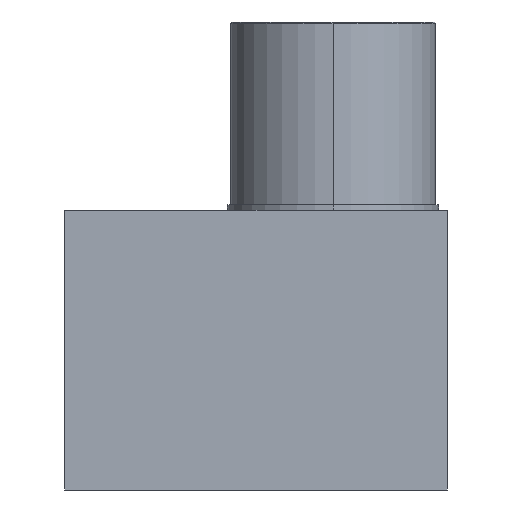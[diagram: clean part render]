
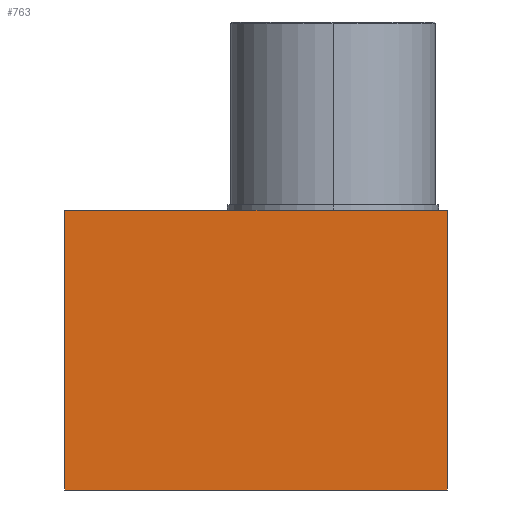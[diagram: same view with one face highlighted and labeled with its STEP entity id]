
A CAD part, left-side view. The second image highlights one B-rep face of the part: STEP entity #763.
In plain terms, the highlighted planar face has unit normal (-1, 0, 0).
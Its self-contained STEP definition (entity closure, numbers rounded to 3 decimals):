
#1=DIRECTION('',(0.,0.,-1.));
#2=VECTOR('',#1,49.);
#3=CARTESIAN_POINT('',(-73.,0.,24.5));
#4=LINE('',#3,#2);
#57=DIRECTION('',(0.,1.,0.));
#58=VECTOR('',#57,67.);
#59=CARTESIAN_POINT('',(-73.,-67.,-24.5));
#60=LINE('',#59,#58);
#69=DIRECTION('',(0.,1.,0.));
#70=VECTOR('',#69,67.);
#71=CARTESIAN_POINT('',(-73.,-67.,24.5));
#72=LINE('',#71,#70);
#159=DIRECTION('',(0.,0.,-1.));
#160=VECTOR('',#159,49.);
#161=CARTESIAN_POINT('',(-73.,-67.,24.5));
#162=LINE('',#161,#160);
#557=CARTESIAN_POINT('',(-73.,0.,24.5));
#558=CARTESIAN_POINT('',(-73.,0.,-24.5));
#559=VERTEX_POINT('',#557);
#560=VERTEX_POINT('',#558);
#565=CARTESIAN_POINT('',(-73.,-67.,24.5));
#566=CARTESIAN_POINT('',(-73.,-67.,-24.5));
#567=VERTEX_POINT('',#565);
#568=VERTEX_POINT('',#566);
#749=CARTESIAN_POINT('',(-73.,0.,-24.5));
#750=DIRECTION('',(-1.,0.,0.));
#751=DIRECTION('',(0.,0.,1.));
#752=AXIS2_PLACEMENT_3D('',#749,#750,#751);
#753=PLANE('',#752);
#754=ORIENTED_EDGE('',*,*,#714,.F.);
#756=ORIENTED_EDGE('',*,*,#755,.F.);
#758=ORIENTED_EDGE('',*,*,#757,.T.);
#760=ORIENTED_EDGE('',*,*,#759,.T.);
#761=EDGE_LOOP('',(#754,#756,#758,#760));
#762=FACE_OUTER_BOUND('',#761,.F.);
#763=ADVANCED_FACE('',(#762),#753,.T.);
#714=EDGE_CURVE('',#559,#560,#4,.T.);
#755=EDGE_CURVE('',#567,#559,#72,.T.);
#757=EDGE_CURVE('',#567,#568,#162,.T.);
#759=EDGE_CURVE('',#568,#560,#60,.T.);
